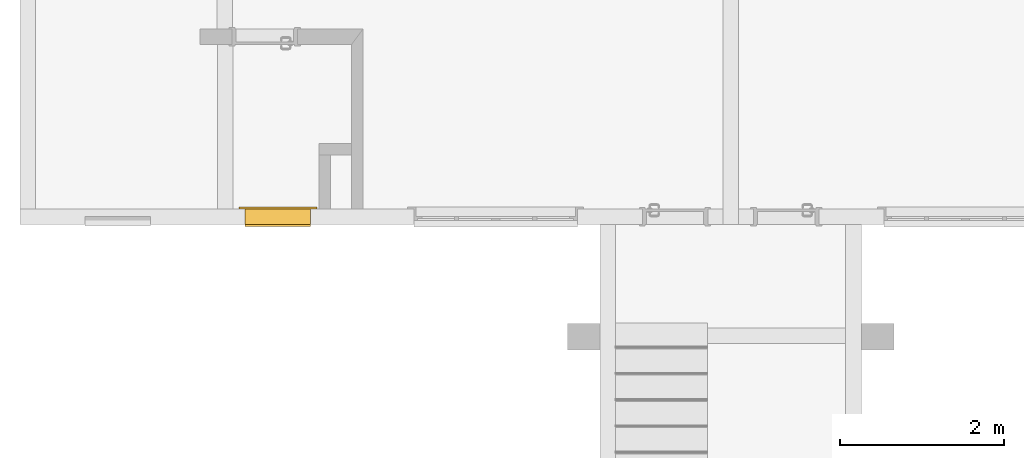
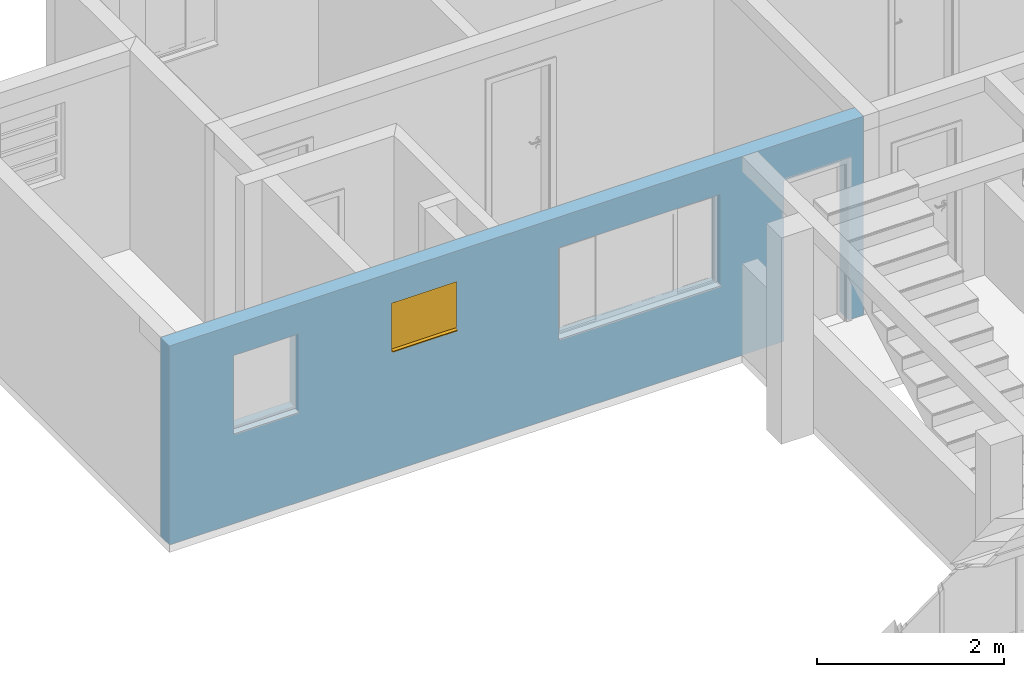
# One storey, part 24 of 43: 1 window, 4 openings, plus 1 element that does not belong to this part.
"""IFC2X3 building model written with IfcOpenShell, lengths in millimetres."""

from ifc_helpers import new_model, entity, si_unit, converted_unit, derived_unit, money_unit, direction, frame, origin_with_axes, origin_2d_with_axis, place, context, subcontext, project, spatial, polyline, rectangle, outline, extrude, open_shell, faceted_brep, surface_model, source, transform, mapped, material, layer, layer_set, layer_usage, type_object, element, fill, save


model = new_model("IFC2X3")

# Units and contexts
model_context = context("Model", 3, precision=0.01, world=origin_with_axes(), true_north=direction((0.0, 1.0)))
body_context = subcontext(model_context, "Body", "Model", "MODEL_VIEW")
ifc_project = project(units=[si_unit("LENGTHUNIT", "METRE", prefix="MILLI"), si_unit("AREAUNIT", "SQUARE_METRE"), si_unit("VOLUMEUNIT", "CUBIC_METRE"), converted_unit("PLANEANGLEUNIT", "DEGREE", entity("IfcPlaneAngleMeasure", 0.0174532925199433), si_unit("PLANEANGLEUNIT", "RADIAN"), dimensions=[0, 0, 0, 0, 0, 0, 0]), money_unit("USD"), converted_unit("TIMEUNIT", "Year", entity("IfcTimeMeasure", 31557600.0), si_unit("TIMEUNIT", "SECOND"), dimensions=[0, 0, 1, 0, 0, 0, 0]), si_unit("MASSUNIT", "GRAM", prefix="KILO"), si_unit("THERMODYNAMICTEMPERATUREUNIT", "DEGREE_CELSIUS"), si_unit("LUMINOUSINTENSITYUNIT", "LUMEN"), si_unit("ENERGYUNIT", "JOULE", prefix="MEGA"), derived_unit("THERMALCONDUCTANCEUNIT", [(si_unit("POWERUNIT", "WATT"), 1), (si_unit("LENGTHUNIT", "METRE"), -1), (si_unit("THERMODYNAMICTEMPERATUREUNIT", "KELVIN"), -1)]), derived_unit("SPECIFICHEATCAPACITYUNIT", [(si_unit("ENERGYUNIT", "JOULE"), 1), (si_unit("MASSUNIT", "GRAM", prefix="KILO"), -1), (si_unit("THERMODYNAMICTEMPERATUREUNIT", "KELVIN"), -1)]), derived_unit("MASSDENSITYUNIT", [(si_unit("MASSUNIT", "GRAM", prefix="KILO"), 1), (si_unit("VOLUMEUNIT", "CUBIC_METRE"), -1)])], contexts=[model_context])

# Site, building, storey
site_placement = place(None, origin_with_axes())
site = spatial("IfcSite", under=ifc_project, at=site_placement, Name="Local", CompositionType="ELEMENT")
building_placement = place(site_placement, origin_with_axes())
building = spatial("IfcBuilding", under=site, at=building_placement, Name="Construção", CompositionType="ELEMENT")
storey_placement = place(building_placement, origin_with_axes())
storey = spatial("IfcBuildingStorey", under=building, at=storey_placement, Name="Pavimento Tipo", CompositionType="ELEMENT", Elevation=0.0)

# Wall, openings, window
ifc_material = material(Name="Concreto - Estrutural")
ifc_layer = layer(ifc_material, 190.0, ventilated="UNKNOWN")
ifc_layer_set = layer_set([ifc_layer], Name="Concreto - Estrutural 190")
ifc_layer_usage = layer_usage(ifc_layer_set, "AXIS2", "NEGATIVE", 0.0)
wall_type = type_object("IfcWallType", Name="Concreto - Estrutural 190", PredefinedType="NOTDEFINED")
wall_placement = place(storey_placement, frame((55117.434598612, 5832.461520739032, 0.0), z_axis=(0.0, 0.0, 1.0), x_axis=(1.0, 0.0, 0.0)))
wall = element("IfcWallStandardCase", 1, at=wall_placement, inside=storey, type_object=wall_type, material=ifc_layer_usage, Name="Apartamento 2 - Parede-001", context=body_context, shape_type="SweptSolid", body=[
    extrude(outline(polyline([(0.0, -190.0000000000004), (8584.765133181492, -190.0000000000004), (8584.765133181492, 0.0), (0.0, 0.0), (0.0, -190.0000000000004)])), origin_with_axes(), (0.0, 0.0, 1.0), 2600.0),
])
opening_1_placement = place(wall_placement, frame((1195.000000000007, 0.0, 1200.0), z_axis=(0.0, 0.0, 1.0), x_axis=(1.0, 0.0, 0.0)))
element("IfcOpeningElement", 2, at=opening_1_placement, cuts=wall, Name="Apartamento 2 - J03", context=body_context, shape_type="SweptSolid", body=[
    extrude(rectangle(XDim=799.9999999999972, YDim=1000.0, at=origin_2d_with_axis()), frame((0.0, -140.0000000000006, 500.0), z_axis=(0.0, -1.0, 0.0), x_axis=(-1.0, 0.0, 0.0)), (0.0, 0.0, -1.0), 330.0),
    extrude(rectangle(XDim=799.9999999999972, YDim=1000.0, at=origin_2d_with_axis()), frame((0.0, -140.0000000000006, 500.0), z_axis=(0.0, 1.0, 0.0), x_axis=(-1.0, 0.0, 0.0)), (0.0, 0.0, -1.0), 240.0),
    extrude(rectangle(XDim=799.9999999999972, YDim=30.00000000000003, at=origin_2d_with_axis()), frame((0.0, -105.0000000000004, -15.00000000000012), z_axis=(0.0, 1.0, 0.0), x_axis=(-1.0, 0.0, 0.0)), (0.0, 0.0, -1.0), 225.0),
])
opening_2_placement = place(wall_placement, frame((3149.999999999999, 0.0, 1600.0), z_axis=(0.0, 0.0, 1.0), x_axis=(1.0, 0.0, 0.0)))
opening_2 = element("IfcOpeningElement", 3, at=opening_2_placement, cuts=wall, Name="Apartamento 2 - J02", context=body_context, shape_type="SweptSolid", body=[
    extrude(rectangle(XDim=799.9999999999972, YDim=600.0000000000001, at=origin_2d_with_axis()), frame((0.0, 190.0000000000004, 300.0000000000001), z_axis=(0.0, -1.0, 0.0), x_axis=(-1.0, 0.0, 0.0)), (0.0, 0.0, 1.0), 570.0000000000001),
    extrude(rectangle(XDim=799.9999999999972, YDim=30.00000000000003, at=origin_2d_with_axis()), frame((0.0, -155.0000000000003, -15.00000000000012), z_axis=(0.0, 1.0, 0.0), x_axis=(-1.0, 0.0, 0.0)), (0.0, 0.0, -1.0), 225.0),
    extrude(rectangle(XDim=950.0000000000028, YDim=750.0, at=origin_2d_with_axis()), frame((0.0, 0.0, 300.0000000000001), z_axis=(0.0, -1.0, 0.0), x_axis=(-1.0, 0.0, 0.0)), (0.0, 0.0, -1.0), 190.0),
])
opening_3_placement = place(wall_placement, frame((5810.000000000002, 0.0, 1000.0), z_axis=(0.0, 0.0, 1.0), x_axis=(1.0, 0.0, 0.0)))
element("IfcOpeningElement", 4, at=opening_3_placement, cuts=wall, Name="Apartamento 2 - J01", context=body_context, shape_type="SweptSolid", body=[
    extrude(rectangle(XDim=2000.0, YDim=1200.0, at=origin_2d_with_axis()), frame((0.0, -140.0000000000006, 600.0000000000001), z_axis=(0.0, 1.0, 0.0), x_axis=(1.0, 0.0, 0.0)), (0.0, 0.0, 1.0), 330.0),
    extrude(rectangle(XDim=2000.0, YDim=1200.0, at=origin_2d_with_axis()), frame((0.0, -140.0000000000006, 600.0000000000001), z_axis=(0.0, -1.0, 0.0), x_axis=(1.0, 0.0, 0.0)), (0.0, 0.0, 1.0), 240.0),
    extrude(rectangle(XDim=2150.000000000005, YDim=1350.0, at=origin_2d_with_axis()), frame((0.0, 0.0, 599.9999999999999), z_axis=(0.0, 1.0, 0.0), x_axis=(1.0, 0.0, 0.0)), (0.0, 0.0, 1.0), 240.0),
])
opening_4_placement = place(wall_placement, frame((8000.000000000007, 0.0, 0.0), z_axis=(0.0, 0.0, 1.0), x_axis=(1.0, 0.0, 0.0)))
element("IfcOpeningElement", 5, at=opening_4_placement, cuts=wall, Name="Apartamento 2 - P01", context=body_context, shape_type="SweptSolid", body=[
    extrude(rectangle(XDim=799.9999999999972, YDim=2100.0, at=origin_2d_with_axis()), frame((0.0, 190.0000000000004, 1050.0), z_axis=(0.0, -1.0, 0.0), x_axis=(1.0, 0.0, 0.0)), (0.0, 0.0, 1.0), 570.0000000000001),
    extrude(rectangle(XDim=870.0000000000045, YDim=2135.0, at=origin_2d_with_axis()), frame((0.0, 0.0, 1067.5), z_axis=(0.0, -1.0, 0.0), x_axis=(1.0, 0.0, 0.0)), (0.0, 0.0, -1.0), 190.0),
    extrude(rectangle(XDim=870.0000000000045, YDim=2135.0, at=origin_2d_with_axis()), frame((0.0, -189.9999999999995, 1067.5), z_axis=(0.0, 1.0, 0.0), x_axis=(1.0, 0.0, 0.0)), (0.0, 0.0, -1.0), 190.0),
])
window_style = type_object("IfcWindowStyle", Name="Janela 27", ConstructionType="NOTDEFINED", OperationType="SINGLE_PANEL", ParameterTakesPrecedence=False, Sizeable=False)
shared_shape = source(origin_with_axes(), body_context, "Body", "SurfaceModel", [
    faceted_brep([(-400.0, -34.99999999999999, 0.0), (400.0, -34.99999999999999, 0.0), (400.0, -24.99999999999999, 0.0), (-400.0, -24.99999999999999, 0.0), (-400.0, -34.99999999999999, -30.0), (400.0, -34.99999999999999, -29.99999999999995), (400.0, 25.0, -29.99999999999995), (400.0, 25.0, -17.02704173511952), (400.0, -24.99999999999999, -9.999999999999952), (-400.0, -24.99999999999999, -10.0), (-400.0, 25.0, -17.02704173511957), (-400.0, 25.0, -30.0)], [[[0, 1, 2, 3]], [[4, 5, 1, 0]], [[1, 5, 6, 7, 8, 2]], [[3, 2, 8, 9]], [[0, 3, 9, 10, 11, 4]], [[11, 6, 5, 4]], [[10, 7, 6, 11]], [[9, 8, 7, 10]]]),
    faceted_brep([(-400.0, -49.99999999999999, 0.0), (400.0, -49.99999999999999, 0.0), (400.0, -190.0, 0.0), (-400.0, -190.0, 0.0), (-400.0, -50.00000000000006, 600.0), (400.0, -50.00000000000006, 600.0), (-375.0, -49.99999999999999, 24.99999999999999), (375.0, -49.99999999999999, 24.99999999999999), (375.0, -50.00000000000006, 575.0), (-375.0, -50.00000000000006, 575.0), (400.0, -190.0000000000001, 600.0), (-400.0, -190.0000000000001, 600.0), (-375.0, -190.0, 24.99999999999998), (-375.0, -190.0000000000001, 575.0), (375.0, -190.0000000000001, 575.0), (375.0, -190.0, 24.99999999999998)], [[[0, 1, 2, 3]], [[0, 4, 5, 1], [6, 7, 8, 9]], [[1, 5, 10, 2]], [[3, 2, 10, 11], [12, 13, 14, 15]], [[4, 0, 3, 11]], [[5, 4, 11, 10]], [[7, 6, 12, 15]], [[8, 7, 15, 14]], [[9, 8, 14, 13]], [[6, 9, 13, 12]]]),
    faceted_brep([(-475.0, -215.0, -75.00000000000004), (-475.0, -190.0, -75.00000000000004), (-375.0, -190.0, 24.99999999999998), (-375.0, -215.0, 24.99999999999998), (-475.0, -215.0000000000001, 675.0), (-475.0, -190.0000000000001, 675.0), (-375.0, -190.0000000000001, 575.0), (-375.0, -215.0000000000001, 575.0)], [[[0, 1, 2, 3]], [[4, 5, 1, 0]], [[1, 5, 6, 2]], [[3, 2, 6, 7]], [[0, 3, 7, 4]], [[7, 6, 5, 4]]]),
    faceted_brep([(475.0, -215.0000000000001, 675.0), (475.0, -190.0000000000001, 675.0), (375.0, -190.0000000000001, 575.0), (375.0, -215.0000000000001, 575.0), (475.0, -215.0, -75.00000000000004), (475.0, -190.0, -75.00000000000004), (375.0, -190.0, 24.99999999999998), (375.0, -215.0, 24.99999999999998)], [[[0, 1, 2, 3]], [[4, 5, 1, 0]], [[1, 5, 6, 2]], [[3, 2, 6, 7]], [[0, 3, 7, 4]], [[7, 6, 5, 4]]]),
    faceted_brep([(475.0, -215.0, -75.00000000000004), (475.0, -190.0, -75.00000000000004), (375.0, -190.0, 24.99999999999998), (375.0, -215.0, 24.99999999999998), (-475.0, -215.0, -75.00000000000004), (-475.0, -190.0, -75.00000000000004), (-375.0, -190.0, 24.99999999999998), (-375.0, -215.0, 24.99999999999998)], [[[0, 1, 2, 3]], [[4, 5, 1, 0]], [[1, 5, 6, 2]], [[3, 2, 6, 7]], [[0, 3, 7, 4]], [[7, 6, 5, 4]]]),
    faceted_brep([(-475.0, -215.0000000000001, 674.9999999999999), (-475.0, -190.0000000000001, 674.9999999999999), (-375.0, -190.0000000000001, 575.0), (-375.0, -215.0000000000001, 575.0), (475.0, -215.0000000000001, 674.9999999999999), (475.0, -190.0000000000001, 674.9999999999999), (375.0, -190.0000000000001, 575.0), (375.0, -215.0000000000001, 575.0)], [[[0, 1, 2, 3]], [[4, 5, 1, 0]], [[1, 5, 6, 2]], [[3, 2, 6, 7]], [[0, 3, 7, 4]], [[7, 6, 5, 4]]]),
    faceted_brep([(-373.0000000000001, 0.0, 552.9999999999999), (-400.0, 0.0, 552.9999999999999), (-400.0, -50.00000000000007, 552.9999999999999), (-353.0000000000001, -50.00000000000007, 552.9999999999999), (-353.0000000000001, -20.00000000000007, 552.9999999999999), (-373.0000000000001, -20.00000000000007, 552.9999999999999), (-373.0000000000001, 0.0, 46.99999999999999), (-400.0, 0.0, 46.99999999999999), (-400.0, -50.00000000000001, 46.99999999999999), (-353.0000000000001, -50.00000000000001, 46.99999999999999), (-353.0000000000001, -20.00000000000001, 46.99999999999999), (-373.0000000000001, -20.00000000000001, 47.00000000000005)], [[[0, 1, 2, 3, 4, 5]], [[6, 7, 1, 0]], [[1, 7, 8, 2]], [[2, 8, 9, 3]], [[4, 3, 9, 10]], [[10, 11, 5, 4]], [[5, 11, 6, 0]], [[11, 10, 9, 8, 7, 6]]]),
    faceted_brep([(353.0000000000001, -20.00000000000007, 552.9999999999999), (353.0000000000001, -50.00000000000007, 552.9999999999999), (400.0, -50.00000000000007, 552.9999999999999), (400.0, 0.0, 552.9999999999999), (373.0000000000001, 0.0, 552.9999999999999), (373.0000000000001, -20.00000000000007, 552.9999999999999), (353.0000000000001, -20.00000000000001, 46.99999999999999), (353.0000000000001, -50.00000000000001, 46.99999999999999), (400.0, -50.00000000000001, 46.99999999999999), (400.0, 0.0, 46.99999999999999), (373.0000000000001, 0.0, 46.99999999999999), (373.0000000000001, -20.00000000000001, 46.99999999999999)], [[[0, 1, 2, 3, 4, 5]], [[6, 7, 1, 0]], [[8, 2, 1, 7]], [[9, 3, 2, 8]], [[4, 3, 9, 10]], [[10, 11, 5, 4]], [[5, 11, 6, 0]], [[11, 10, 9, 8, 7, 6]]]),
    faceted_brep([(353.0000000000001, -20.00000000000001, 46.99999999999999), (353.0000000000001, -50.00000000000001, 46.99999999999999), (400.0, -50.00000000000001, 46.99999999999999), (400.0, 0.0, 46.99999999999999), (373.0000000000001, 0.0, 46.99999999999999), (373.0000000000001, -20.00000000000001, 46.99999999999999), (-353.0000000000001, -20.00000000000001, 46.99999999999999), (-353.0000000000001, -50.00000000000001, 46.99999999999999), (-400.0, -50.00000000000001, 46.99999999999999), (-400.0, -50.0, 0.0), (400.0, -50.0, 0.0), (400.0, 0.0, 0.0), (-373.0000000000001, 0.0, 27.00000000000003), (373.0000000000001, 0.0, 27.00000000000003), (-400.0, 0.0, 0.0), (-400.0, 0.0, 46.99999999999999), (-373.0000000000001, 0.0, 46.99999999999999), (373.0000000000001, -20.0, 27.00000000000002), (-373.0000000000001, -20.0, 27.00000000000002), (-373.0000000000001, -20.00000000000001, 47.00000000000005)], [[[0, 1, 2, 3, 4, 5]], [[6, 7, 1, 0]], [[8, 9, 10, 2, 1, 7]], [[11, 3, 2, 10]], [[12, 13, 4, 3, 11, 14, 15, 16]], [[13, 17, 5, 4]], [[5, 17, 18, 19, 6, 0]], [[19, 16, 15, 8, 7, 6]], [[15, 14, 9, 8]], [[14, 11, 10, 9]], [[12, 18, 17, 13]], [[19, 18, 12, 16]]]),
    faceted_brep([(-373.0000000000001, 0.0, 552.9999999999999), (-400.0, 0.0, 552.9999999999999), (-400.0, 0.0, 600.0), (400.0, 0.0, 600.0), (400.0, 0.0, 552.9999999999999), (373.0000000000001, 0.0, 552.9999999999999), (373.0000000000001, 0.0, 573.0), (-373.0000000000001, 0.0, 573.0), (-373.0000000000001, -20.00000000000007, 552.9999999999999), (-353.0000000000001, -20.00000000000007, 552.9999999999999), (-353.0000000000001, -50.00000000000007, 552.9999999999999), (-400.0, -50.00000000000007, 552.9999999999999), (-400.0, -50.00000000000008, 600.0), (400.0, -50.00000000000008, 600.0), (400.0, -50.00000000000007, 552.9999999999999), (373.0000000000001, -20.00000000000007, 552.9999999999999), (353.0000000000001, -50.00000000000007, 552.9999999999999), (353.0000000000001, -20.00000000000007, 552.9999999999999), (373.0000000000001, -20.00000000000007, 573.0), (-373.0000000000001, -20.00000000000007, 573.0)], [[[0, 1, 2, 3, 4, 5, 6, 7]], [[8, 9, 10, 11, 1, 0]], [[2, 1, 11, 12]], [[3, 2, 12, 13]], [[4, 3, 13, 14]], [[15, 5, 4, 14, 16, 17]], [[5, 15, 18, 6]], [[6, 18, 19, 7]], [[7, 19, 8, 0]], [[17, 9, 8, 19, 18, 15]], [[17, 16, 10, 9]], [[14, 13, 12, 11, 10, 16]]]),
    faceted_brep([(-323.0000000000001, -20.00000000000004, 522.9999999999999), (-323.0000000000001, 0.0, 522.9999999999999), (-373.0000000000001, 0.0, 522.9999999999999), (-373.0000000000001, -20.00000000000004, 522.9999999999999), (-323.0000000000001, -19.99999999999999, 77.00000000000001), (-323.0000000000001, 0.0, 77.00000000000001), (-373.0000000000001, 0.0, 77.00000000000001), (-373.0000000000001, -19.99999999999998, 77.00000000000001)], [[[0, 1, 2, 3]], [[4, 5, 1, 0]], [[1, 5, 6, 2]], [[3, 2, 6, 7]], [[0, 3, 7, 4]], [[7, 6, 5, 4]]]),
    faceted_brep([(323.0000000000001, -20.00000000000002, 77.00000000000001), (323.0000000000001, 0.0, 77.00000000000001), (373.0000000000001, 0.0, 77.00000000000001), (373.0000000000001, -20.00000000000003, 77.00000000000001), (323.0000000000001, -20.00000000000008, 522.9999999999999), (323.0000000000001, 0.0, 522.9999999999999), (373.0000000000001, 0.0, 522.9999999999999), (373.0000000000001, -20.00000000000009, 522.9999999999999)], [[[0, 1, 2, 3]], [[4, 5, 1, 0]], [[1, 5, 6, 2]], [[3, 2, 6, 7]], [[0, 3, 7, 4]], [[7, 6, 5, 4]]]),
    faceted_brep([(373.0000000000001, -20.00000000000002, 27.0), (373.0000000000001, 0.0, 27.00000000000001), (373.0000000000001, 0.0, 77.00000000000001), (373.0000000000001, -20.00000000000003, 77.00000000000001), (-373.0000000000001, -19.99999999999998, 27.0), (-373.0000000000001, 0.0, 27.00000000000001), (-373.0000000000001, 0.0, 77.00000000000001), (-323.0000000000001, 0.0, 77.00000000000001), (323.0000000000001, 0.0, 77.00000000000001), (323.0000000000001, -20.00000000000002, 77.00000000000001), (-323.0000000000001, -19.99999999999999, 77.00000000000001), (-373.0000000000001, -19.99999999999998, 77.00000000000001)], [[[0, 1, 2, 3]], [[4, 5, 1, 0]], [[1, 5, 6, 7, 8, 2]], [[3, 2, 8, 9]], [[0, 3, 9, 10, 11, 4]], [[11, 6, 5, 4]], [[10, 7, 6, 11]], [[9, 8, 7, 10]]]),
    faceted_brep([(-373.0000000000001, -20.00000000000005, 573.0), (-373.0000000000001, 0.0, 573.0), (-373.0000000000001, 0.0, 522.9999999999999), (-373.0000000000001, -20.00000000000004, 522.9999999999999), (373.0000000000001, -20.00000000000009, 573.0), (373.0000000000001, 0.0, 573.0), (373.0000000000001, 0.0, 522.9999999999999), (323.0000000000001, 0.0, 522.9999999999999), (-323.0000000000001, 0.0, 522.9999999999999), (-323.0000000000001, -20.00000000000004, 522.9999999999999), (323.0000000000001, -20.00000000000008, 522.9999999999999), (373.0000000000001, -20.00000000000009, 522.9999999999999)], [[[0, 1, 2, 3]], [[4, 5, 1, 0]], [[1, 5, 6, 7, 8, 2]], [[3, 2, 8, 9]], [[0, 3, 9, 10, 11, 4]], [[11, 6, 5, 4]], [[10, 7, 6, 11]], [[9, 8, 7, 10]]]),
    surface_model("IfcShellBasedSurfaceModel", [(-323.0000000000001, -20.00000000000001, 77.00000000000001), (323.0000000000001, -20.00000000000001, 77.00000000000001), (323.0000000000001, -20.00000000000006, 522.9999999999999), (-323.0000000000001, -20.00000000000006, 522.9999999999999)], [open_shell([[[0, 1, 2, 3]]])]),
    surface_model("IfcShellBasedSurfaceModel", [(-323.0000000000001, 0.0, 77.00000000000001), (-323.0000000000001, 0.0, 522.9999999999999), (323.0000000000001, 0.0, 522.9999999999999), (323.0000000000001, 0.0, 77.00000000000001)], [open_shell([[[0, 1, 2, 3]]])]),
])
window_placement = place(opening_2_placement, frame((399.9999999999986, 0.0, 0.0), z_axis=(0.0, 0.0, 1.0), x_axis=(-1.0, 0.0, 0.0)))
window = element("IfcWindow", 6, at=window_placement, inside=storey, type_object=window_style, Name="Apartamento 2 - J02", ObjectType="WINDOW", OverallHeight=600.0, OverallWidth=800.0, context=body_context, shape_type="MappedRepresentation", body=[
    mapped(shared_shape, transform((399.9999999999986, 190.0000000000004, 0.0))),
])
fill(opening_2, window)

save(model, "model.ifc")
